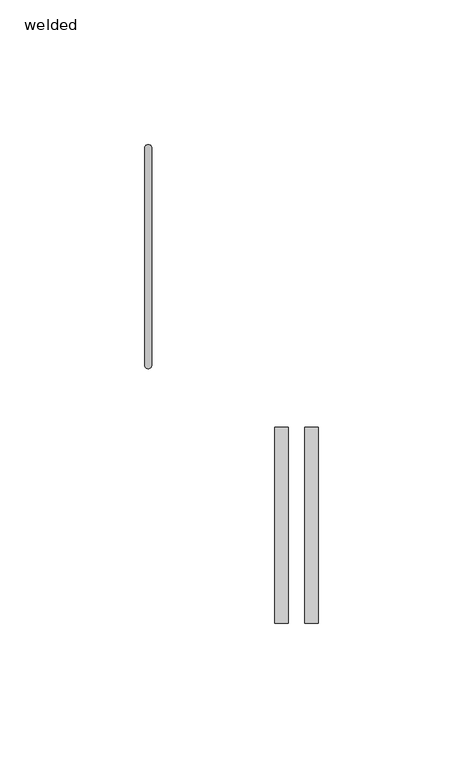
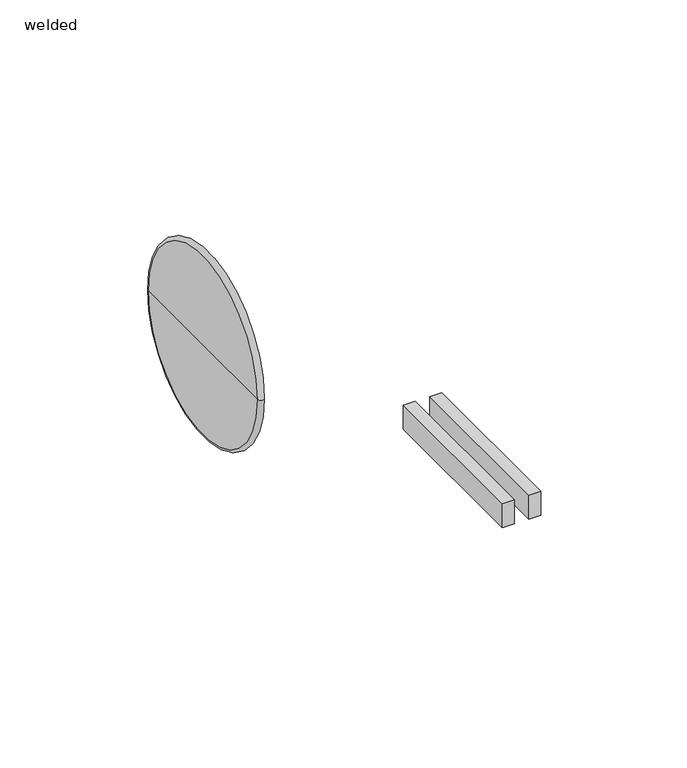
"""IFC4 building model written with IfcOpenShell, lengths in millimetres: pipe fitting geometry, NLRS_52_PIF_UN_HDPE weld_Akatherm : welded."""

from ifc_helpers import new_model, si_unit, point, frame, origin, place, context, project, spatial, polyline, circle_curve, ellipse_curve, trimmed, outline, extrude, source, transform, mapped, element, save
from ifc_brep_helpers import plane_surface, revolved_surface, advanced_brep


def welded_6cbd62db(model_context):
    return source(origin(), model_context, "Body", "SolidModel", [
        extrude(outline(polyline([(42.5311847, -126.9421922), (42.5311847, -59.143993), (47.3087456, -59.143993), (47.3087456, -126.9421922), (42.5311847, -126.9421922)])), frame((0.0, 0.0, -15.0), z_axis=(0.0, 0.0, 1.0), x_axis=(1.0, 0.0, 0.0)), (0.0, 0.0, 1.0), 10.0),
        extrude(outline(polyline([(52.9005519, -126.9421922), (52.9005519, -59.143993), (57.6781127, -59.143993), (57.6781127, -126.9421922), (52.9005519, -126.9421922)])), frame((0.0, 0.0, -15.0), z_axis=(0.0, 0.0, 1.0), x_axis=(1.0, 0.0, 0.0)), (0.0, 0.0, 1.0), 10.0),
        advanced_brep(
        [(-2.5, -37.5, 0.0), (-2.5, 37.5, 0.0), (0.0, 37.5, 0.0), (0.0, -37.5, 0.0), (-2.5, 0.0, 0.0), (0.0, 0.0, 0.0)],
        [
            (0, 1, circle_curve(frame((-2.5, 0.0, 0.0), z_axis=(1.0, 0.0, 0.0), x_axis=(0.0, 1.0, 0.0)), 37.5)),
            (1, 2, circle_curve(frame((-1.25, 37.5, 0.0), z_axis=(0.0, 0.0, -1.0), x_axis=(1.0, 0.0, 0.0)), 1.25)),
            (2, 3, circle_curve(frame((0.0, 0.0, 0.0), z_axis=(-1.0, 0.0, 0.0), x_axis=(0.0, 1.0, 0.0)), 37.5)),
            (3, 0, circle_curve(frame((-1.25, -37.5, 0.0), z_axis=(0.0, 0.0, -1.0), x_axis=(1.0, 0.0, 0.0)), 1.25)),
            (1, 0, circle_curve(frame((-2.5, 0.0, 0.0), z_axis=(1.0, 0.0, 0.0), x_axis=(0.0, 1.0, 0.0)), 37.5)),
            (3, 2, circle_curve(frame((0.0, 0.0, 0.0), z_axis=(-1.0, 0.0, 0.0), x_axis=(0.0, 1.0, 0.0)), 37.5)),
            (4, 1),
            (0, 4),
            (2, 5),
            (5, 3),
        ],
        [
            revolved_surface(trimmed(ellipse_curve(frame((-1.25, 37.5, 0.0), z_axis=(0.0, 0.0, 1.0), x_axis=(1.0, 0.0, 0.0)), 1.25, 1.25), [point((0.0, 37.5, 0.0))], [point((-2.5, 37.5, 0.0))], True, "CARTESIAN"), (-40.65, 0.0, 0.0), (-1.0, 0.0, 0.0)),
            plane_surface(frame((-2.5, 0.0, 0.0), z_axis=(-1.0, 0.0, 0.0), x_axis=(0.0, 1.0, 0.0))),
            plane_surface(frame((0.0, 0.0, 0.0), z_axis=(1.0, 0.0, 0.0), x_axis=(0.0, 1.0, 0.0))),
        ],
        [
            (0, [[1, 2, 3, 4]]),
            (0, [[5, -4, 6, -2]]),
            (1, [[7, -1, 8]]),
            (1, [[-8, -5, -7]]),
            (2, [[-3, 9, 10]]),
            (2, [[-6, -10, -9]]),
        ],
    ),
    ])


if __name__ == "__main__":
    model = new_model("IFC4")
    model_context = context("Model", 3, world=origin())
    ifc_project = project(units=[si_unit("LENGTHUNIT", "METRE", prefix="MILLI")], contexts=[model_context])
    site = spatial("IfcSite", under=ifc_project)
    building = spatial("IfcBuilding", under=site)
    placement = place(None, origin())
    welded_shape = welded_6cbd62db(model_context)
    element("IfcPipeFitting", 1, ObjectType="NLRS_52_PIF_UN_HDPE weld_Akatherm : welded", at=placement, inside=building, context=model_context, shape_type="MappedRepresentation", body=[
        mapped(welded_shape, transform((0.0, 0.0, 0.0), x_axis=(1.0, 0.0, 0.0), y_axis=(0.0, 1.0, 0.0), z_axis=(0.0, 0.0, 1.0))),
    ])
    save(model, "model.ifc")
